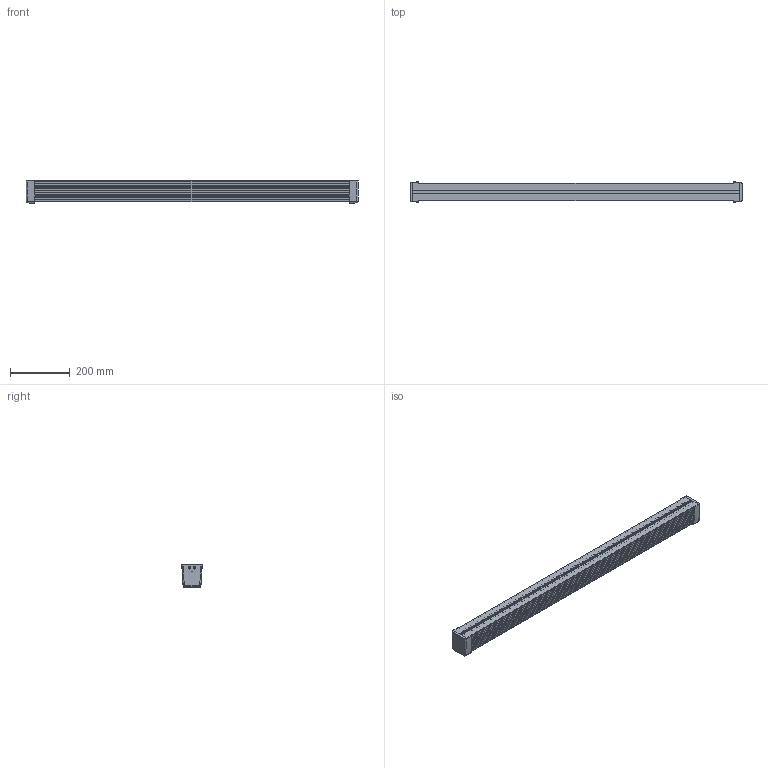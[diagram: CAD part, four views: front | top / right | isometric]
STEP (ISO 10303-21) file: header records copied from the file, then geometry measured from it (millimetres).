
FILE_DESCRIPTION (( 'STEP AP214' ), '1' );
FILE_NAME ('975L-4809-01.STEP', '2020-07-23T21:16:38', ( '' ), ( '' ), 'SwSTEP 2.0', 'SolidWorks 2018', '' );
FILE_SCHEMA (( 'AUTOMOTIVE_DESIGN' ));
Length unit declared in the file: inch
Products named in the file (1): 975L-4809-01
Bounding box: 1114.04 x 67.74 x 75.16 mm (x, y, z)
Volume: 2194650.5 mm3; surface area: 794204 mm2
Topology: 4 solids, 6 shells, 5050 faces, 11701 edges, 7021 vertices
Faces by surface type: plane 1988, cylinder 1948, bspline 814, cone 284, torus 16
Entity records: 164771 total; most frequent: CARTESIAN_POINT 59344, ORIENTED_EDGE 23394, DIRECTION 19029, EDGE_CURVE 11697, VERTEX_POINT 7021, AXIS2_PLACEMENT_3D 6595, LINE 5839, VECTOR 5839
